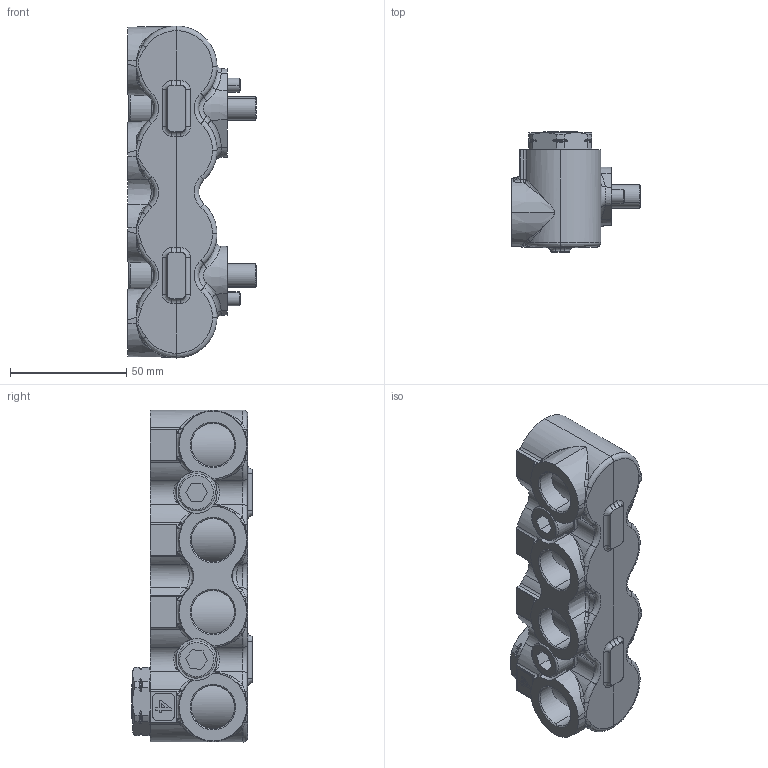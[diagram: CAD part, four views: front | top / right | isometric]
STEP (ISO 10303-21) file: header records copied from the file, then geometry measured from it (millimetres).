
FILE_DESCRIPTION (( 'STEP AP214' ), '1' );
FILE_NAME ('P7318-1B.STEP', '2023-05-25T09:03:51', ( '' ), ( '' ), 'SwSTEP 2.0', 'SolidWorks 2021', '' );
FILE_SCHEMA (( 'AUTOMOTIVE_DESIGN' ));
Length unit declared in the file: millimetre
Products named in the file (1): P7318-1B
Bounding box: 55.5 x 52 x 143 mm (x, y, z)
Volume: 189056 mm3; surface area: 42315.6 mm2
Topology: 10 solids, 10 shells, 551 faces, 1358 edges, 843 vertices
Faces by surface type: cylinder 154, bspline 144, plane 118, cone 101, torus 34
Entity records: 28939 total; most frequent: CARTESIAN_POINT 10962, ORIENTED_EDGE 2708, DIRECTION 2181, EDGE_CURVE 1354, AXIS2_PLACEMENT_3D 888, VERTEX_POINT 843, EDGE_LOOP 579, UNCERTAINTY_MEASURE_WITH_UNIT 563
